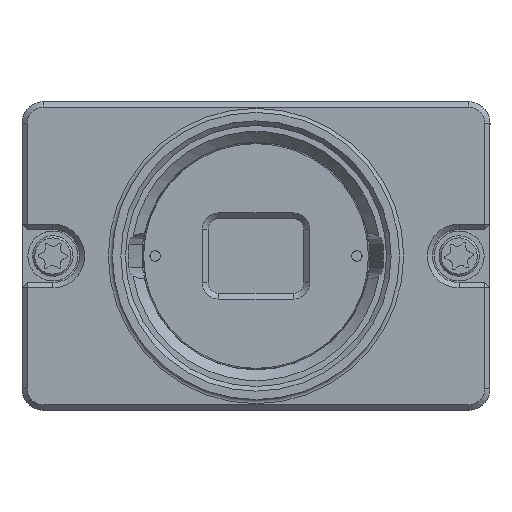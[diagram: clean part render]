
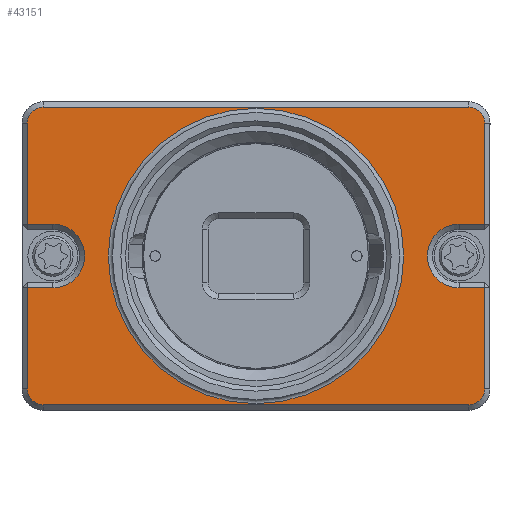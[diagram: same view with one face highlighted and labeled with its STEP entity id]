
A CAD part, front view. The second image highlights one B-rep face of the part: STEP entity #43151.
In plain terms, the highlighted planar face has unit normal (0, -1, 0).
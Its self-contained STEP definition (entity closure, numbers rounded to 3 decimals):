
#337=FACE_BOUND('',#4455,.T.);
#2126=FACE_OUTER_BOUND('',#4454,.T.);
#4454=EDGE_LOOP('',(#28067,#28068,#28069,#28070,#28071,#28072,#28073,#28074,
#28075,#28076,#28077,#28078,#28079,#28080,#28081,#28082));
#4455=EDGE_LOOP('',(#28083,#28084));
#6988=CIRCLE('',#45681,13.88);
#6989=CIRCLE('',#45682,13.88);
#6991=CIRCLE('',#45685,3.);
#6992=CIRCLE('',#45686,1.5);
#6993=CIRCLE('',#45687,1.5);
#6994=CIRCLE('',#45688,3.);
#6995=CIRCLE('',#45689,1.5);
#6996=CIRCLE('',#45690,1.5);
#8010=LINE('',#60837,#12464);
#8011=LINE('',#60839,#12465);
#8012=LINE('',#60843,#12466);
#8013=LINE('',#60845,#12467);
#8014=LINE('',#60849,#12468);
#8015=LINE('',#60853,#12469);
#8016=LINE('',#60855,#12470);
#8017=LINE('',#60859,#12471);
#8018=LINE('',#60861,#12472);
#8019=LINE('',#60865,#12473);
#12464=VECTOR('',#49363,10.);
#12465=VECTOR('',#49364,10.);
#12466=VECTOR('',#49367,10.);
#12467=VECTOR('',#49368,10.);
#12468=VECTOR('',#49371,10.);
#12469=VECTOR('',#49374,10.);
#12470=VECTOR('',#49375,10.);
#12471=VECTOR('',#49378,10.);
#12472=VECTOR('',#49379,10.);
#12473=VECTOR('',#49382,10.);
#17045=VERTEX_POINT('',#60828);
#17046=VERTEX_POINT('',#60830);
#17047=VERTEX_POINT('',#60835);
#17048=VERTEX_POINT('',#60836);
#17049=VERTEX_POINT('',#60838);
#17050=VERTEX_POINT('',#60840);
#17051=VERTEX_POINT('',#60842);
#17052=VERTEX_POINT('',#60844);
#17053=VERTEX_POINT('',#60846);
#17054=VERTEX_POINT('',#60848);
#17055=VERTEX_POINT('',#60850);
#17056=VERTEX_POINT('',#60852);
#17057=VERTEX_POINT('',#60854);
#17058=VERTEX_POINT('',#60856);
#17059=VERTEX_POINT('',#60858);
#17060=VERTEX_POINT('',#60860);
#17061=VERTEX_POINT('',#60862);
#17062=VERTEX_POINT('',#60864);
#21286=EDGE_CURVE('',#17045,#17046,#6988,.T.);
#21287=EDGE_CURVE('',#17046,#17045,#6989,.T.);
#21289=EDGE_CURVE('',#17047,#17048,#8010,.T.);
#21290=EDGE_CURVE('',#17049,#17047,#8011,.T.);
#21291=EDGE_CURVE('',#17050,#17049,#6991,.T.);
#21292=EDGE_CURVE('',#17051,#17050,#8012,.T.);
#21293=EDGE_CURVE('',#17052,#17051,#8013,.T.);
#21294=EDGE_CURVE('',#17053,#17052,#6992,.T.);
#21295=EDGE_CURVE('',#17054,#17053,#8014,.T.);
#21296=EDGE_CURVE('',#17055,#17054,#6993,.T.);
#21297=EDGE_CURVE('',#17056,#17055,#8015,.T.);
#21298=EDGE_CURVE('',#17057,#17056,#8016,.T.);
#21299=EDGE_CURVE('',#17058,#17057,#6994,.T.);
#21300=EDGE_CURVE('',#17059,#17058,#8017,.T.);
#21301=EDGE_CURVE('',#17060,#17059,#8018,.T.);
#21302=EDGE_CURVE('',#17061,#17060,#6995,.T.);
#21303=EDGE_CURVE('',#17062,#17061,#8019,.T.);
#21304=EDGE_CURVE('',#17048,#17062,#6996,.T.);
#28067=ORIENTED_EDGE('',*,*,#21289,.F.);
#28068=ORIENTED_EDGE('',*,*,#21290,.F.);
#28069=ORIENTED_EDGE('',*,*,#21291,.F.);
#28070=ORIENTED_EDGE('',*,*,#21292,.F.);
#28071=ORIENTED_EDGE('',*,*,#21293,.F.);
#28072=ORIENTED_EDGE('',*,*,#21294,.F.);
#28073=ORIENTED_EDGE('',*,*,#21295,.F.);
#28074=ORIENTED_EDGE('',*,*,#21296,.F.);
#28075=ORIENTED_EDGE('',*,*,#21297,.F.);
#28076=ORIENTED_EDGE('',*,*,#21298,.F.);
#28077=ORIENTED_EDGE('',*,*,#21299,.F.);
#28078=ORIENTED_EDGE('',*,*,#21300,.F.);
#28079=ORIENTED_EDGE('',*,*,#21301,.F.);
#28080=ORIENTED_EDGE('',*,*,#21302,.F.);
#28081=ORIENTED_EDGE('',*,*,#21303,.F.);
#28082=ORIENTED_EDGE('',*,*,#21304,.F.);
#28083=ORIENTED_EDGE('',*,*,#21287,.F.);
#28084=ORIENTED_EDGE('',*,*,#21286,.F.);
#39645=PLANE('',#45684);
#43151=ADVANCED_FACE('',(#2126,#337),#39645,.T.);
#45681=AXIS2_PLACEMENT_3D('',#60831,#49355,#49356);
#45682=AXIS2_PLACEMENT_3D('',#60832,#49357,#49358);
#45684=AXIS2_PLACEMENT_3D('',#60834,#49361,#49362);
#45685=AXIS2_PLACEMENT_3D('',#60841,#49365,#49366);
#45686=AXIS2_PLACEMENT_3D('',#60847,#49369,#49370);
#45687=AXIS2_PLACEMENT_3D('',#60851,#49372,#49373);
#45688=AXIS2_PLACEMENT_3D('',#60857,#49376,#49377);
#45689=AXIS2_PLACEMENT_3D('',#60863,#49380,#49381);
#45690=AXIS2_PLACEMENT_3D('',#60866,#49383,#49384);
#49355=DIRECTION('center_axis',(0.,-1.,0.));
#49356=DIRECTION('ref_axis',(1.,0.,0.));
#49357=DIRECTION('center_axis',(0.,-1.,0.));
#49358=DIRECTION('ref_axis',(1.,0.,0.));
#49361=DIRECTION('center_axis',(0.,-1.,0.));
#49362=DIRECTION('ref_axis',(-1.,0.,0.));
#49363=DIRECTION('',(0.,0.,1.));
#49364=DIRECTION('',(-1.,0.,0.));
#49365=DIRECTION('center_axis',(0.,-1.,0.));
#49366=DIRECTION('ref_axis',(1.,0.,0.));
#49367=DIRECTION('',(1.,0.,0.));
#49368=DIRECTION('',(0.,0.,1.));
#49369=DIRECTION('center_axis',(0.,1.,0.));
#49370=DIRECTION('ref_axis',(-0.707,0.,-0.707));
#49371=DIRECTION('',(-1.,0.,0.));
#49372=DIRECTION('center_axis',(0.,1.,0.));
#49373=DIRECTION('ref_axis',(0.707,0.,-0.707));
#49374=DIRECTION('',(0.,0.,-1.));
#49375=DIRECTION('',(1.,0.,0.));
#49376=DIRECTION('center_axis',(0.,-1.,0.));
#49377=DIRECTION('ref_axis',(-1.,0.,0.));
#49378=DIRECTION('',(-1.,0.,0.));
#49379=DIRECTION('',(0.,0.,-1.));
#49380=DIRECTION('center_axis',(0.,1.,0.));
#49381=DIRECTION('ref_axis',(0.707,0.,0.707));
#49382=DIRECTION('',(1.,0.,0.));
#49383=DIRECTION('center_axis',(0.,1.,0.));
#49384=DIRECTION('ref_axis',(-0.707,0.,0.707));
#60828=CARTESIAN_POINT('',(0.,-9.416,13.88));
#60830=CARTESIAN_POINT('',(-13.88,-9.416,0.));
#60831=CARTESIAN_POINT('Origin',(0.,-9.416,0.));
#60832=CARTESIAN_POINT('Origin',(0.,-9.416,0.));
#60834=CARTESIAN_POINT('Origin',(19.1,-9.416,0.));
#60835=CARTESIAN_POINT('',(-21.5,-9.416,3.));
#60836=CARTESIAN_POINT('',(-21.5,-9.416,12.5));
#60837=CARTESIAN_POINT('',(-21.5,-9.416,-7.25));
#60838=CARTESIAN_POINT('',(-19.1,-9.416,3.));
#60839=CARTESIAN_POINT('',(-1.45,-9.416,3.));
#60840=CARTESIAN_POINT('',(-19.1,-9.416,-3.));
#60841=CARTESIAN_POINT('Origin',(-19.1,-9.416,0.));
#60842=CARTESIAN_POINT('',(-21.5,-9.416,-3.));
#60843=CARTESIAN_POINT('',(0.,-9.416,-3.));
#60844=CARTESIAN_POINT('',(-21.5,-9.416,-12.5));
#60845=CARTESIAN_POINT('',(-21.5,-9.416,-7.25));
#60846=CARTESIAN_POINT('',(-20.,-9.416,-14.));
#60847=CARTESIAN_POINT('Origin',(-20.,-9.416,-12.5));
#60848=CARTESIAN_POINT('',(20.,-9.416,-14.));
#60849=CARTESIAN_POINT('',(20.55,-9.416,-14.));
#60850=CARTESIAN_POINT('',(21.5,-9.416,-12.5));
#60851=CARTESIAN_POINT('Origin',(20.,-9.416,-12.5));
#60852=CARTESIAN_POINT('',(21.5,-9.416,-3.));
#60853=CARTESIAN_POINT('',(21.5,-9.416,7.25));
#60854=CARTESIAN_POINT('',(19.1,-9.416,-3.));
#60855=CARTESIAN_POINT('',(20.55,-9.416,-3.));
#60856=CARTESIAN_POINT('',(19.1,-9.416,3.));
#60857=CARTESIAN_POINT('Origin',(19.1,-9.416,0.));
#60858=CARTESIAN_POINT('',(21.5,-9.416,3.));
#60859=CARTESIAN_POINT('',(19.1,-9.416,3.));
#60860=CARTESIAN_POINT('',(21.5,-9.416,12.5));
#60861=CARTESIAN_POINT('',(21.5,-9.416,7.25));
#60862=CARTESIAN_POINT('',(20.,-9.416,14.));
#60863=CARTESIAN_POINT('Origin',(20.,-9.416,12.5));
#60864=CARTESIAN_POINT('',(-20.,-9.416,14.));
#60865=CARTESIAN_POINT('',(-1.45,-9.416,14.));
#60866=CARTESIAN_POINT('Origin',(-20.,-9.416,12.5));
